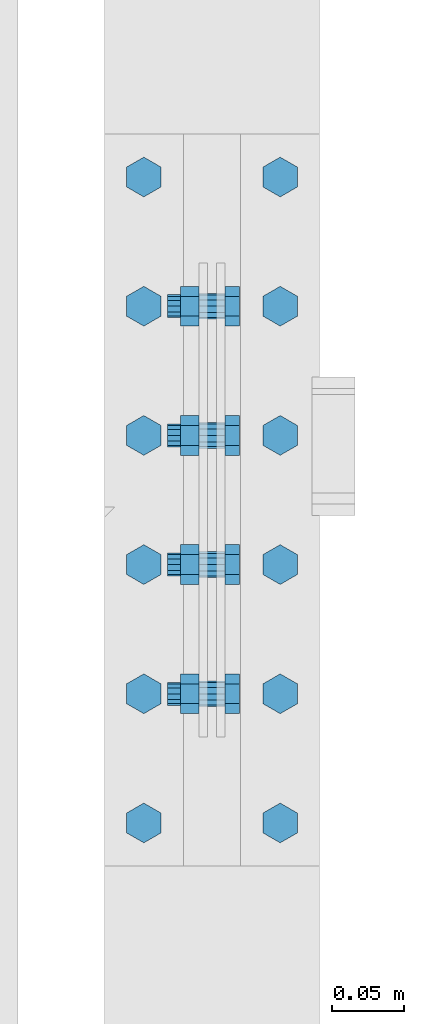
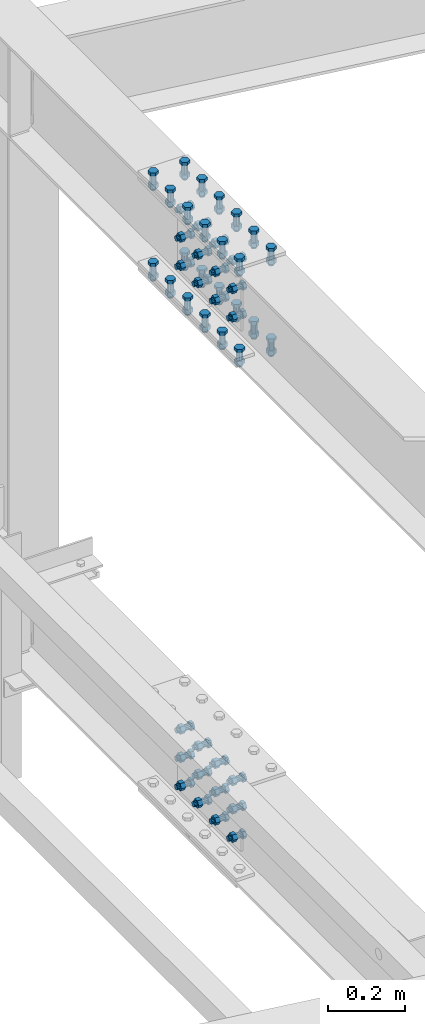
# One storey, part 272 of 3134: 12 mechanical fasteners, 2 elements without a shape of their own.
"""IFC2X3 building model written with IfcOpenShell, lengths in millimetres."""

from ifc_helpers import new_model, si_unit, frame, origin_with_axes, place, context, subcontext, project, spatial, faceted_brep, source, transform, mapped, material, type_object, element, aggregate, save


model = new_model("IFC2X3")

# Units and contexts
model_context = context("Model", 3, precision=1e-05, world=origin_with_axes())
body_context = subcontext(model_context, "Body", "Model", "MODEL_VIEW")
ifc_project = project(units=[si_unit("LENGTHUNIT", "METRE", prefix="MILLI"), si_unit("AREAUNIT", "SQUARE_METRE"), si_unit("VOLUMEUNIT", "CUBIC_METRE"), si_unit("MASSUNIT", "GRAM", prefix="KILO"), si_unit("TIMEUNIT", "SECOND"), si_unit("PLANEANGLEUNIT", "RADIAN"), si_unit("SOLIDANGLEUNIT", "STERADIAN"), si_unit("THERMODYNAMICTEMPERATUREUNIT", "DEGREE_CELSIUS"), si_unit("LUMINOUSINTENSITYUNIT", "LUMEN")], contexts=[model_context])

# Site, building, storey
site_placement = place(None, origin_with_axes())
site = spatial("IfcSite", under=ifc_project, at=site_placement, CompositionType="ELEMENT")
building_placement = place(site_placement, origin_with_axes())
building = spatial("IfcBuilding", under=site, at=building_placement, Name="Undefined", CompositionType="ELEMENT")
storey_placement = place(building_placement, origin_with_axes())
storey = spatial("IfcBuildingStorey", under=building, at=storey_placement, Name="Undefined", CompositionType="ELEMENT", Elevation=0.0)

# Assembly, mechanical fastener
assembly_1_placement = place(storey_placement, origin_with_axes())
assembly_1 = element("IfcElementAssembly", 1, at=assembly_1_placement, inside=storey, Name="300", AssemblyPlace="NOTDEFINED", PredefinedType="RIGID_FRAME")
ifc_material = material(Name="8.8")
mechanical_fastener_type = type_object("IfcMechanicalFastenerType", Name="Bolt assembly")
shared_shape_1 = source(origin_with_axes(), body_context, "Body", "Brep", [
    faceted_brep([(13.856406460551, -19.0499999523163, 0.0), (6.92820323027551, -19.0499999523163, 12.0), (-6.92820323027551, -19.0499999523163, 12.0), (-13.856406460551, -19.0499999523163, 1.69692038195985e-15), (-6.92820323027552, -19.0499999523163, -12.0), (6.9282032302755, -19.0499999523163, -12.0), (6.9282032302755, -9.04999995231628, -12.0), (-6.92820323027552, -9.04999995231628, -12.0), (-13.856406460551, -9.04999995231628, 1.69692038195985e-15), (-6.92820323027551, -9.04999995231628, 12.0), (6.92820323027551, -9.04999995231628, 12.0), (13.856406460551, -9.04999995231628, 0.0), (8.0, -9.04999995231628, 0.0), (6.92820323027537, -9.04999995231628, 4.00000000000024), (3.99999999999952, -9.04999995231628, 6.92820323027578), (-8.29068785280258e-13, -9.04999995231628, 8.0), (-4.00000000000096, -9.04999995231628, 6.92820323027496), (-6.9282032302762, -9.04999995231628, 3.99999999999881), (-8.0, -9.04999995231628, -1.65813757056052e-12), (-6.92820323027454, -9.04999995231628, -4.00000000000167), (-3.99999999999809, -9.04999995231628, -6.92820323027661), (2.47832457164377e-12, -9.04999995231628, -8.0), (4.00000000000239, -9.04999995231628, -6.92820323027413), (6.92820323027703, -9.04999995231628, -3.99999999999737), (6.92820323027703, 30.9500000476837, -3.99999999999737), (4.00000000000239, 30.9500000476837, -6.92820323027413), (2.47832457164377e-12, 30.9500000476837, -8.0), (-3.99999999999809, 30.9500000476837, -6.92820323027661), (-6.92820323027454, 30.9500000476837, -4.00000000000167), (-8.0, 30.9500000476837, -1.65813757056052e-12), (-6.9282032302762, 30.9500000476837, 3.99999999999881), (-4.00000000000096, 30.9500000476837, 6.92820323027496), (-8.29068785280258e-13, 30.9500000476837, 8.0), (3.99999999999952, 30.9500000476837, 6.92820323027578), (6.92820323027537, 30.9500000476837, 4.00000000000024), (8.0, 30.9500000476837, 0.0), (13.856406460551, 9.04999995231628, 0.0), (6.92820323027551, 9.04999995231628, 12.0), (-6.92820323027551, 9.04999995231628, 12.0), (-13.856406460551, 9.04999995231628, 1.69692038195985e-15), (-6.92820323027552, 9.04999995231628, -12.0), (6.9282032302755, 9.04999995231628, -12.0), (6.9282032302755, 22.0499999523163, -12.0), (-6.92820323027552, 22.0499999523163, -12.0), (-13.856406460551, 22.0499999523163, 1.69692038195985e-15), (-6.92820323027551, 22.0499999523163, 12.0), (6.92820323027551, 22.0499999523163, 12.0), (13.856406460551, 22.0499999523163, 0.0)], [[[0, 1, 2, 3, 4, 5]], [[6, 7, 8, 9, 10, 11]], [[0, 11, 10, 1]], [[1, 10, 9, 2]], [[2, 9, 8, 3]], [[3, 8, 7, 4]], [[4, 7, 6, 5]], [[5, 6, 11, 0]], [[12, 13, 14, 15, 16, 17, 18, 19, 20, 21, 22, 23]], [[24, 25, 26, 27, 28, 29, 30, 31, 32, 33, 34, 35]], [[12, 35, 34, 13]], [[13, 34, 33, 14]], [[14, 33, 32, 15]], [[15, 32, 31, 16]], [[16, 31, 30, 17]], [[17, 30, 29, 18]], [[18, 29, 28, 19]], [[19, 28, 27, 20]], [[20, 27, 26, 21]], [[21, 26, 25, 22]], [[22, 25, 24, 23]], [[23, 24, 35, 12]], [[36, 37, 38, 39, 40, 41]], [[42, 43, 44, 45, 46, 47]], [[36, 47, 46, 37]], [[37, 46, 45, 38]], [[38, 45, 44, 39]], [[39, 44, 43, 40]], [[40, 43, 42, 41]], [[41, 42, 47, 36]]]),
    faceted_brep([(9.0, -8.94999995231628, 0.0), (7.79422863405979, -8.94999995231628, 4.50000000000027), (4.49999999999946, -8.94999995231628, 7.79422863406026), (-9.3270238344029e-13, -8.94999995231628, 9.0), (-4.50000000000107, -8.94999995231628, 7.79422863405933), (-7.79422863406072, -8.94999995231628, 4.49999999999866), (-9.0, -8.94999995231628, -1.86540476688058e-12), (-7.79422863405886, -8.94999995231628, -4.50000000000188), (-4.49999999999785, -8.94999995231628, -7.79422863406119), (2.78811514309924e-12, -8.94999995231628, -9.0), (4.50000000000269, -8.94999995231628, -7.7942286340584), (7.79422863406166, -8.94999995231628, -4.49999999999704), (7.79422863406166, -2.94999995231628, -4.49999999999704), (4.50000000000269, -2.94999995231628, -7.7942286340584), (2.78811514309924e-12, -2.94999995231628, -9.0), (-4.49999999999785, -2.94999995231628, -7.79422863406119), (-7.79422863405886, -2.94999995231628, -4.50000000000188), (-9.0, -2.94999995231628, -1.86540476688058e-12), (-7.79422863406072, -2.94999995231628, 4.49999999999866), (-4.50000000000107, -2.94999995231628, 7.79422863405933), (-9.3270238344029e-13, -2.94999995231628, 9.0), (4.49999999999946, -2.94999995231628, 7.79422863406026), (7.79422863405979, -2.94999995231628, 4.50000000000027), (9.0, -2.94999995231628, 0.0), (9.0, -3.04999995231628, 0.0), (7.79422863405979, -3.04999995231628, 4.50000000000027), (4.49999999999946, -3.04999995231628, 7.79422863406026), (-9.3270238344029e-13, -3.04999995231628, 9.0), (-4.50000000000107, -3.04999995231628, 7.79422863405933), (-7.79422863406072, -3.04999995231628, 4.49999999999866), (-9.0, -3.04999995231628, -1.86540476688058e-12), (-7.79422863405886, -3.04999995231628, -4.50000000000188), (-4.49999999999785, -3.04999995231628, -7.79422863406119), (2.78811514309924e-12, -3.04999995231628, -9.0), (4.50000000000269, -3.04999995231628, -7.7942286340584), (7.79422863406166, -3.04999995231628, -4.49999999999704), (7.79422863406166, 3.04999995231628, -4.49999999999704), (4.50000000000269, 3.04999995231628, -7.7942286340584), (2.78811514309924e-12, 3.04999995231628, -9.0), (-4.49999999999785, 3.04999995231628, -7.79422863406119), (-7.79422863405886, 3.04999995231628, -4.50000000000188), (-9.0, 3.04999995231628, -1.86540476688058e-12), (-7.79422863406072, 3.04999995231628, 4.49999999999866), (-4.50000000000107, 3.04999995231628, 7.79422863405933), (-9.3270238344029e-13, 3.04999995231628, 9.0), (4.49999999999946, 3.04999995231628, 7.79422863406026), (7.79422863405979, 3.04999995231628, 4.50000000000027), (9.0, 3.04999995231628, 0.0), (9.0, 2.95000000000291, 0.0), (7.79422863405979, 2.95000000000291, 4.50000000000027), (4.49999999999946, 2.95000000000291, 7.79422863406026), (-9.3270238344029e-13, 2.95000000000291, 9.0), (-4.50000000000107, 2.95000000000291, 7.79422863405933), (-7.79422863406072, 2.95000000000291, 4.49999999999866), (-9.0, 2.95000000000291, -1.86540476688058e-12), (-7.79422863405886, 2.95000000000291, -4.50000000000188), (-4.49999999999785, 2.95000000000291, -7.79422863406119), (2.78811514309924e-12, 2.95000000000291, -9.0), (4.50000000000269, 2.95000000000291, -7.7942286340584), (7.79422863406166, 2.95000000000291, -4.49999999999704), (7.79422863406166, 9.04999995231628, -4.49999999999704), (4.50000000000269, 9.04999995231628, -7.7942286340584), (2.78811514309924e-12, 9.04999995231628, -9.0), (-4.49999999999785, 9.04999995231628, -7.79422863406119), (-7.79422863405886, 9.04999995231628, -4.50000000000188), (-9.0, 9.04999995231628, -1.86540476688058e-12), (-7.79422863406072, 9.04999995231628, 4.49999999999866), (-4.50000000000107, 9.04999995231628, 7.79422863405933), (-9.3270238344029e-13, 9.04999995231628, 9.0), (4.49999999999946, 9.04999995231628, 7.79422863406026), (7.79422863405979, 9.04999995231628, 4.50000000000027), (9.0, 9.04999995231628, 0.0)], [[[0, 1, 2, 3, 4, 5, 6, 7, 8, 9, 10, 11]], [[12, 13, 14, 15, 16, 17, 18, 19, 20, 21, 22, 23]], [[0, 23, 22, 1]], [[1, 22, 21, 2]], [[2, 21, 20, 3]], [[3, 20, 19, 4]], [[4, 19, 18, 5]], [[5, 18, 17, 6]], [[6, 17, 16, 7]], [[7, 16, 15, 8]], [[8, 15, 14, 9]], [[9, 14, 13, 10]], [[10, 13, 12, 11]], [[11, 12, 23, 0]], [[24, 25, 26, 27, 28, 29, 30, 31, 32, 33, 34, 35]], [[36, 37, 38, 39, 40, 41, 42, 43, 44, 45, 46, 47]], [[24, 47, 46, 25]], [[25, 46, 45, 26]], [[26, 45, 44, 27]], [[27, 44, 43, 28]], [[28, 43, 42, 29]], [[29, 42, 41, 30]], [[30, 41, 40, 31]], [[31, 40, 39, 32]], [[32, 39, 38, 33]], [[33, 38, 37, 34]], [[34, 37, 36, 35]], [[35, 36, 47, 24]], [[48, 49, 50, 51, 52, 53, 54, 55, 56, 57, 58, 59]], [[60, 61, 62, 63, 64, 65, 66, 67, 68, 69, 70, 71]], [[48, 71, 70, 49]], [[49, 70, 69, 50]], [[50, 69, 68, 51]], [[51, 68, 67, 52]], [[52, 67, 66, 53]], [[53, 66, 65, 54]], [[54, 65, 64, 55]], [[55, 64, 63, 56]], [[56, 63, 62, 57]], [[57, 62, 61, 58]], [[58, 61, 60, 59]], [[59, 60, 71, 48]]]),
])
mechanical_fastener_1_placement = place(assembly_1_placement, frame((44200.0, 52220.1, 5741.5), z_axis=(0.0, 0.0, 1.0), x_axis=(0.0, 1.0, 0.0)))
mechanical_fastener_1 = element("IfcMechanicalFastener", 2, at=mechanical_fastener_1_placement, type_object=mechanical_fastener_type, material=ifc_material, Name="Bolt assembly", NominalDiameter=16.0, NominalLength=40.0, context=body_context, shape_type="MappedRepresentation", body=[
    mapped(shared_shape_1, transform((0.0, 0.0, -90.0))),
    mapped(shared_shape_1, transform((90.0, 0.0, -90.0))),
    mapped(shared_shape_1, transform((0.0, 0.0, 0.0))),
    mapped(shared_shape_1, transform((90.0, 0.0, 0.0))),
    mapped(shared_shape_1, transform((0.0, 0.0, 90.0))),
    mapped(shared_shape_1, transform((90.0, 0.0, 90.0))),
])

# Assembly, mechanical fasteners
assembly_2_placement = place(storey_placement, origin_with_axes())
assembly_2 = element("IfcElementAssembly", 3, at=assembly_2_placement, inside=storey, Name="300", AssemblyPlace="NOTDEFINED", PredefinedType="RIGID_FRAME")
mechanical_fastener_2_placement = place(assembly_2_placement, frame((44200.0, 52040.1, 5741.5), z_axis=(0.0, 0.0, 1.0), x_axis=(0.0, 1.0, 0.0)))
mechanical_fastener_2 = element("IfcMechanicalFastener", 4, at=mechanical_fastener_2_placement, type_object=mechanical_fastener_type, material=ifc_material, Name="Bolt assembly", NominalDiameter=16.0, NominalLength=40.0, context=body_context, shape_type="MappedRepresentation", body=[
    mapped(shared_shape_1, transform((0.0, 0.0, -90.0))),
    mapped(shared_shape_1, transform((90.0, 0.0, -90.0))),
    mapped(shared_shape_1, transform((0.0, 0.0, 0.0))),
    mapped(shared_shape_1, transform((90.0, 0.0, 0.0))),
    mapped(shared_shape_1, transform((0.0, 0.0, 90.0))),
    mapped(shared_shape_1, transform((90.0, 0.0, 90.0))),
])
mechanical_fastener_3_placement = place(assembly_2_placement, frame((44200.0, 52040.1, 4088.5), z_axis=(0.0, 0.0, 1.0), x_axis=(0.0, 1.0, 0.0)))
mechanical_fastener_3 = element("IfcMechanicalFastener", 5, at=mechanical_fastener_3_placement, type_object=mechanical_fastener_type, material=ifc_material, Name="Bolt assembly", NominalDiameter=16.0, NominalLength=40.0, context=body_context, shape_type="MappedRepresentation", body=[
    mapped(shared_shape_1, transform((0.0, 0.0, -90.0))),
    mapped(shared_shape_1, transform((90.0, 0.0, -90.0))),
    mapped(shared_shape_1, transform((0.0, 0.0, 0.0))),
    mapped(shared_shape_1, transform((90.0, 0.0, 0.0))),
    mapped(shared_shape_1, transform((0.0, 0.0, 90.0))),
    mapped(shared_shape_1, transform((90.0, 0.0, 90.0))),
])

# Mechanical fastener
mechanical_fastener_4_placement = place(assembly_1_placement, frame((44200.0, 52220.1, 4088.5), z_axis=(0.0, 0.0, 1.0), x_axis=(0.0, 1.0, 0.0)))
mechanical_fastener_4 = element("IfcMechanicalFastener", 6, at=mechanical_fastener_4_placement, type_object=mechanical_fastener_type, material=ifc_material, Name="Bolt assembly", NominalDiameter=16.0, NominalLength=40.0, context=body_context, shape_type="MappedRepresentation", body=[
    mapped(shared_shape_1, transform((0.0, 0.0, -90.0))),
    mapped(shared_shape_1, transform((90.0, 0.0, -90.0))),
    mapped(shared_shape_1, transform((0.0, 0.0, 0.0))),
    mapped(shared_shape_1, transform((90.0, 0.0, 0.0))),
    mapped(shared_shape_1, transform((0.0, 0.0, 90.0))),
    mapped(shared_shape_1, transform((90.0, 0.0, 90.0))),
])

shared_shape_2 = source(origin_with_axes(), body_context, "Body", "Brep", [
    faceted_brep([(13.856406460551, -29.1999998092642, 0.0), (6.92820323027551, -29.1999998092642, 12.0), (-6.92820323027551, -29.1999998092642, 12.0), (-13.856406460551, -29.1999998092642, 1.69692038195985e-15), (-6.92820323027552, -29.1999998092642, -12.0), (6.9282032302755, -29.1999998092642, -12.0), (6.9282032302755, -19.199990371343, -12.0), (-6.92820323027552, -19.199990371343, -12.0), (-13.856406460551, -19.199990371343, 1.69692038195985e-15), (-6.92820323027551, -19.199990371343, 12.0), (6.92820323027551, -19.199990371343, 12.0), (13.856406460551, -19.199990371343, 0.0), (8.0, -19.1999998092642, 0.0), (6.92820323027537, -19.1999998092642, 4.00000000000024), (3.99999999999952, -19.1999998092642, 6.92820323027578), (-8.29068785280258e-13, -19.1999998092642, 8.0), (-4.00000000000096, -19.1999998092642, 6.92820323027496), (-6.9282032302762, -19.1999998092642, 3.99999999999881), (-8.0, -19.1999998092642, -1.65813757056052e-12), (-6.92820323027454, -19.1999998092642, -4.00000000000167), (-3.99999999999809, -19.1999998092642, -6.92820323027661), (2.47832457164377e-12, -19.1999998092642, -8.0), (4.00000000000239, -19.1999998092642, -6.92820323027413), (6.92820323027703, -19.1999998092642, -3.99999999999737), (6.92820323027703, 30.8000001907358, -3.99999999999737), (4.00000000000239, 30.8000001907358, -6.92820323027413), (2.47832457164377e-12, 30.8000001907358, -8.0), (-3.99999999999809, 30.8000001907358, -6.92820323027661), (-6.92820323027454, 30.8000001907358, -4.00000000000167), (-8.0, 30.8000001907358, -1.65813757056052e-12), (-6.9282032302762, 30.8000001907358, 3.99999999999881), (-4.00000000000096, 30.8000001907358, 6.92820323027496), (-8.29068785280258e-13, 30.8000001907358, 8.0), (3.99999999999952, 30.8000001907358, 6.92820323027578), (6.92820323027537, 30.8000001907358, 4.00000000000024), (8.0, 30.8000001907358, 0.0), (13.856406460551, 9.99999995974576, 0.0), (6.92820323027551, 9.99999995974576, 12.0), (-6.92820323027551, 9.99999995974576, 12.0), (-13.856406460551, 9.99999995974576, 1.69692038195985e-15), (-6.92820323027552, 9.99999995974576, -12.0), (6.9282032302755, 9.99999995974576, -12.0), (6.9282032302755, 22.9999913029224, -12.0), (-6.92820323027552, 22.9999913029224, -12.0), (-13.856406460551, 22.9999913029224, 1.69692038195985e-15), (-6.92820323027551, 22.9999913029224, 12.0), (6.92820323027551, 22.9999913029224, 12.0), (13.856406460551, 22.9999913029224, 0.0)], [[[0, 1, 2, 3, 4, 5]], [[6, 7, 8, 9, 10, 11]], [[0, 11, 10, 1]], [[1, 10, 9, 2]], [[2, 9, 8, 3]], [[3, 8, 7, 4]], [[4, 7, 6, 5]], [[5, 6, 11, 0]], [[12, 13, 14, 15, 16, 17, 18, 19, 20, 21, 22, 23]], [[24, 25, 26, 27, 28, 29, 30, 31, 32, 33, 34, 35]], [[12, 35, 34, 13]], [[13, 34, 33, 14]], [[14, 33, 32, 15]], [[15, 32, 31, 16]], [[16, 31, 30, 17]], [[17, 30, 29, 18]], [[18, 29, 28, 19]], [[19, 28, 27, 20]], [[20, 27, 26, 21]], [[21, 26, 25, 22]], [[22, 25, 24, 23]], [[23, 24, 35, 12]], [[36, 37, 38, 39, 40, 41]], [[42, 43, 44, 45, 46, 47]], [[36, 47, 46, 37]], [[37, 46, 45, 38]], [[38, 45, 44, 39]], [[39, 44, 43, 40]], [[40, 43, 42, 41]], [[41, 42, 47, 36]]]),
    faceted_brep([(9.0, -19.0999998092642, 0.0), (7.79422863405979, -19.0999998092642, 4.50000000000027), (4.49999999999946, -19.0999998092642, 7.79422863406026), (-9.3270238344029e-13, -19.0999998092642, 9.0), (-4.50000000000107, -19.0999998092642, 7.79422863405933), (-7.79422863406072, -19.0999998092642, 4.49999999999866), (-9.0, -19.0999998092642, -1.86540476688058e-12), (-7.79422863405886, -19.0999998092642, -4.50000000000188), (-4.49999999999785, -19.0999998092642, -7.79422863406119), (2.78811514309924e-12, -19.0999998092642, -9.0), (4.50000000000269, -19.0999998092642, -7.7942286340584), (7.79422863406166, -19.0999998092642, -4.49999999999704), (7.79422863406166, -9.09999037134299, -4.49999999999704), (4.50000000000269, -9.09999037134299, -7.7942286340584), (2.78811514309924e-12, -9.09999037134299, -9.0), (-4.49999999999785, -9.09999037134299, -7.79422863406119), (-7.79422863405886, -9.09999037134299, -4.50000000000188), (-9.0, -9.09999037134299, -1.86540476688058e-12), (-7.79422863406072, -9.09999037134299, 4.49999999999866), (-4.50000000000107, -9.09999037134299, 7.79422863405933), (-9.3270238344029e-13, -9.09999037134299, 9.0), (4.49999999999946, -9.09999037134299, 7.79422863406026), (7.79422863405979, -9.09999037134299, 4.50000000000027), (9.0, -9.09999037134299, 0.0), (9.0, -9.20000008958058, 0.0), (7.79422863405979, -9.20000008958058, 4.50000000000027), (4.49999999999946, -9.20000008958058, 7.79422863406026), (-9.3270238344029e-13, -9.20000008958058, 9.0), (-4.50000000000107, -9.20000008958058, 7.79422863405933), (-7.79422863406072, -9.20000008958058, 4.49999999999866), (-9.0, -9.20000008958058, -1.86540476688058e-12), (-7.79422863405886, -9.20000008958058, -4.50000000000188), (-4.49999999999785, -9.20000008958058, -7.79422863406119), (2.78811514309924e-12, -9.20000008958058, -9.0), (4.50000000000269, -9.20000008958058, -7.7942286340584), (7.79422863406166, -9.20000008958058, -4.49999999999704), (7.79422863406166, -3.46568413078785e-07, -4.49999999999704), (4.50000000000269, -3.46568413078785e-07, -7.7942286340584), (2.78811514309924e-12, -3.46568413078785e-07, -9.0), (-4.49999999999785, -3.46568413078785e-07, -7.79422863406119), (-7.79422863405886, -3.46568413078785e-07, -4.50000000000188), (-9.0, -3.46568413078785e-07, -1.86540476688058e-12), (-7.79422863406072, -3.46568413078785e-07, 4.49999999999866), (-4.50000000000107, -3.46568413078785e-07, 7.79422863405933), (-9.3270238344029e-13, -3.46568413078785e-07, 9.0), (4.49999999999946, -3.46568413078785e-07, 7.79422863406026), (7.79422863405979, -3.46568413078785e-07, 4.50000000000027), (9.0, -3.46568413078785e-07, 0.0), (9.0, -0.1, 0.0), (7.79422863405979, -0.1, 4.50000000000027), (4.49999999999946, -0.1, 7.79422863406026), (-9.3270238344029e-13, -0.1, 9.0), (-4.50000000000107, -0.1, 7.79422863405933), (-7.79422863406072, -0.1, 4.49999999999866), (-9.0, -0.1, -1.86540476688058e-12), (-7.79422863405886, -0.1, -4.50000000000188), (-4.49999999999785, -0.1, -7.79422863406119), (2.78811514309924e-12, -0.1, -9.0), (4.50000000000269, -0.1, -7.7942286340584), (7.79422863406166, -0.1, -4.49999999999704), (7.79422863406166, 9.99999995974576, -4.49999999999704), (4.50000000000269, 9.99999995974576, -7.7942286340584), (2.78811514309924e-12, 9.99999995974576, -9.0), (-4.49999999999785, 9.99999995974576, -7.79422863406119), (-7.79422863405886, 9.99999995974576, -4.50000000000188), (-9.0, 9.99999995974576, -1.86540476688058e-12), (-7.79422863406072, 9.99999995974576, 4.49999999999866), (-4.50000000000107, 9.99999995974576, 7.79422863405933), (-9.3270238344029e-13, 9.99999995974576, 9.0), (4.49999999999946, 9.99999995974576, 7.79422863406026), (7.79422863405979, 9.99999995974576, 4.50000000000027), (9.0, 9.99999995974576, 0.0)], [[[0, 1, 2, 3, 4, 5, 6, 7, 8, 9, 10, 11]], [[12, 13, 14, 15, 16, 17, 18, 19, 20, 21, 22, 23]], [[0, 23, 22, 1]], [[1, 22, 21, 2]], [[2, 21, 20, 3]], [[3, 20, 19, 4]], [[4, 19, 18, 5]], [[5, 18, 17, 6]], [[6, 17, 16, 7]], [[7, 16, 15, 8]], [[8, 15, 14, 9]], [[9, 14, 13, 10]], [[10, 13, 12, 11]], [[11, 12, 23, 0]], [[24, 25, 26, 27, 28, 29, 30, 31, 32, 33, 34, 35]], [[36, 37, 38, 39, 40, 41, 42, 43, 44, 45, 46, 47]], [[24, 47, 46, 25]], [[25, 46, 45, 26]], [[26, 45, 44, 27]], [[27, 44, 43, 28]], [[28, 43, 42, 29]], [[29, 42, 41, 30]], [[30, 41, 40, 31]], [[31, 40, 39, 32]], [[32, 39, 38, 33]], [[33, 38, 37, 34]], [[34, 37, 36, 35]], [[35, 36, 47, 24]], [[48, 49, 50, 51, 52, 53, 54, 55, 56, 57, 58, 59]], [[60, 61, 62, 63, 64, 65, 66, 67, 68, 69, 70, 71]], [[48, 71, 70, 49]], [[49, 70, 69, 50]], [[50, 69, 68, 51]], [[51, 68, 67, 52]], [[52, 67, 66, 53]], [[53, 66, 65, 54]], [[54, 65, 64, 55]], [[55, 64, 63, 56]], [[56, 63, 62, 57]], [[57, 62, 61, 58]], [[58, 61, 60, 59]], [[59, 60, 71, 48]]]),
])
mechanical_fastener_5_placement = place(assembly_2_placement, frame((44152.5, 51950.1, 5880.80000019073), z_axis=(-1.0, 0.0, 0.0), x_axis=(0.0, 1.0, 0.0)))
mechanical_fastener_5 = element("IfcMechanicalFastener", 7, at=mechanical_fastener_5_placement, type_object=mechanical_fastener_type, material=ifc_material, Name="Bolt assembly", NominalDiameter=16.0, NominalLength=50.0, context=body_context, shape_type="MappedRepresentation", body=[
    mapped(shared_shape_2, transform((0.0, 0.0, 0.0))),
    mapped(shared_shape_2, transform((90.0, 0.0, 0.0))),
    mapped(shared_shape_2, transform((180.0, 0.0, 0.0))),
])

mechanical_fastener_6_placement = place(assembly_1_placement, frame((44152.5, 52220.1, 5880.80000019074), z_axis=(-1.0, 0.0, 0.0), x_axis=(0.0, 1.0, 0.0)))
mechanical_fastener_6 = element("IfcMechanicalFastener", 8, at=mechanical_fastener_6_placement, type_object=mechanical_fastener_type, material=ifc_material, Name="Bolt assembly", NominalDiameter=16.0, NominalLength=50.0, context=body_context, shape_type="MappedRepresentation", body=[
    mapped(shared_shape_2, transform((0.0, 0.0, 0.0))),
    mapped(shared_shape_2, transform((90.0, 0.0, 0.0))),
    mapped(shared_shape_2, transform((180.0, 0.0, 0.0))),
])

mechanical_fastener_7_placement = place(assembly_2_placement, frame((44247.5, 51950.1, 5880.80000019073), z_axis=(-1.0, 0.0, 0.0), x_axis=(0.0, 1.0, 0.0)))
mechanical_fastener_7 = element("IfcMechanicalFastener", 9, at=mechanical_fastener_7_placement, type_object=mechanical_fastener_type, material=ifc_material, Name="Bolt assembly", NominalDiameter=16.0, NominalLength=50.0, context=body_context, shape_type="MappedRepresentation", body=[
    mapped(shared_shape_2, transform((0.0, 0.0, 0.0))),
    mapped(shared_shape_2, transform((90.0, 0.0, 0.0))),
    mapped(shared_shape_2, transform((180.0, 0.0, 0.0))),
])

mechanical_fastener_8_placement = place(assembly_1_placement, frame((44247.5, 52220.1, 5880.80000019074), z_axis=(-1.0, 0.0, 0.0), x_axis=(0.0, 1.0, 0.0)))
mechanical_fastener_8 = element("IfcMechanicalFastener", 10, at=mechanical_fastener_8_placement, type_object=mechanical_fastener_type, material=ifc_material, Name="Bolt assembly", NominalDiameter=16.0, NominalLength=50.0, context=body_context, shape_type="MappedRepresentation", body=[
    mapped(shared_shape_2, transform((0.0, 0.0, 0.0))),
    mapped(shared_shape_2, transform((90.0, 0.0, 0.0))),
    mapped(shared_shape_2, transform((180.0, 0.0, 0.0))),
])

shared_shape_3 = source(origin_with_axes(), body_context, "Body", "Brep", [
    faceted_brep([(13.856406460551, -20.0, 0.0), (6.92820323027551, -20.0, 12.0), (-6.92820323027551, -20.0, 12.0), (-13.856406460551, -20.0, 1.69692038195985e-15), (-6.92820323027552, -20.0, -12.0), (6.9282032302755, -20.0, -12.0), (6.9282032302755, -10.0, -12.0), (-6.92820323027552, -10.0, -12.0), (-13.856406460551, -10.0, 1.69692038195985e-15), (-6.92820323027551, -10.0, 12.0), (6.92820323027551, -10.0, 12.0), (13.856406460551, -10.0, 0.0), (8.0, -10.0, 0.0), (6.92820323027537, -10.0, 4.00000000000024), (3.99999999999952, -10.0, 6.92820323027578), (-8.29068785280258e-13, -10.0, 8.0), (-4.00000000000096, -10.0, 6.92820323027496), (-6.9282032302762, -10.0, 3.99999999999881), (-8.0, -10.0, -1.65813757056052e-12), (-6.92820323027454, -10.0, -4.00000000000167), (-3.99999999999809, -10.0, -6.92820323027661), (2.47832457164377e-12, -10.0, -8.0), (4.00000000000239, -10.0, -6.92820323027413), (6.92820323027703, -10.0, -3.99999999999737), (6.92820323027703, 40.0, -3.99999999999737), (4.00000000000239, 40.0, -6.92820323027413), (2.47832457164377e-12, 40.0, -8.0), (-3.99999999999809, 40.0, -6.92820323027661), (-6.92820323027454, 40.0, -4.00000000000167), (-8.0, 40.0, -1.65813757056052e-12), (-6.9282032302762, 40.0, 3.99999999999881), (-4.00000000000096, 40.0, 6.92820323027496), (-8.29068785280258e-13, 40.0, 8.0), (3.99999999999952, 40.0, 6.92820323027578), (6.92820323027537, 40.0, 4.00000000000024), (8.0, 40.0, 0.0), (13.856406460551, 19.1999998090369, 0.0), (6.92820323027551, 19.1999998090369, 12.0), (-6.92820323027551, 19.1999998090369, 12.0), (-13.856406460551, 19.1999998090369, 1.69692038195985e-15), (-6.92820323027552, 19.1999998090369, -12.0), (6.9282032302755, 19.1999998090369, -12.0), (6.9282032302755, 32.1999998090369, -12.0), (-6.92820323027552, 32.1999998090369, -12.0), (-13.856406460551, 32.1999998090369, 1.69692038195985e-15), (-6.92820323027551, 32.1999998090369, 12.0), (6.92820323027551, 32.1999998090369, 12.0), (13.856406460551, 32.1999998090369, 0.0)], [[[0, 1, 2, 3, 4, 5]], [[6, 7, 8, 9, 10, 11]], [[0, 11, 10, 1]], [[1, 10, 9, 2]], [[2, 9, 8, 3]], [[3, 8, 7, 4]], [[4, 7, 6, 5]], [[5, 6, 11, 0]], [[12, 13, 14, 15, 16, 17, 18, 19, 20, 21, 22, 23]], [[24, 25, 26, 27, 28, 29, 30, 31, 32, 33, 34, 35]], [[12, 35, 34, 13]], [[13, 34, 33, 14]], [[14, 33, 32, 15]], [[15, 32, 31, 16]], [[16, 31, 30, 17]], [[17, 30, 29, 18]], [[18, 29, 28, 19]], [[19, 28, 27, 20]], [[20, 27, 26, 21]], [[21, 26, 25, 22]], [[22, 25, 24, 23]], [[23, 24, 35, 12]], [[36, 37, 38, 39, 40, 41]], [[42, 43, 44, 45, 46, 47]], [[36, 47, 46, 37]], [[37, 46, 45, 38]], [[38, 45, 44, 39]], [[39, 44, 43, 40]], [[40, 43, 42, 41]], [[41, 42, 47, 36]]]),
    faceted_brep([(9.0, 9.09999980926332, 0.0), (7.79422863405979, 9.09999980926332, 4.50000000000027), (4.49999999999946, 9.09999980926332, 7.79422863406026), (-9.3270238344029e-13, 9.09999980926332, 9.0), (-4.50000000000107, 9.09999980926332, 7.79422863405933), (-7.79422863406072, 9.09999980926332, 4.49999999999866), (-9.0, 9.09999980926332, -1.86540476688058e-12), (-7.79422863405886, 9.09999980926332, -4.50000000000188), (-4.49999999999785, 9.09999980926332, -7.79422863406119), (2.78811514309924e-12, 9.09999980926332, -9.0), (4.50000000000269, 9.09999980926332, -7.7942286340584), (7.79422863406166, 9.09999980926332, -4.49999999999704), (7.79422863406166, 19.1999998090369, -4.49999999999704), (4.50000000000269, 19.1999998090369, -7.7942286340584), (2.78811514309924e-12, 19.1999998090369, -9.0), (-4.49999999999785, 19.1999998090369, -7.79422863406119), (-7.79422863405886, 19.1999998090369, -4.50000000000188), (-9.0, 19.1999998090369, -1.86540476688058e-12), (-7.79422863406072, 19.1999998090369, 4.49999999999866), (-4.50000000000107, 19.1999998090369, 7.79422863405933), (-9.3270238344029e-13, 19.1999998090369, 9.0), (4.49999999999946, 19.1999998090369, 7.79422863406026), (7.79422863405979, 19.1999998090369, 4.50000000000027), (9.0, 19.1999998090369, 0.0), (9.0, -3.46568413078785e-07, 0.0), (7.79422863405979, -3.46568413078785e-07, 4.50000000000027), (4.49999999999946, -3.46568413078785e-07, 7.79422863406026), (-9.3270238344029e-13, -3.46568413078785e-07, 9.0), (-4.50000000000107, -3.46568413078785e-07, 7.79422863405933), (-7.79422863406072, -3.46568413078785e-07, 4.49999999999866), (-9.0, -3.46568413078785e-07, -1.86540476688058e-12), (-7.79422863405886, -3.46568413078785e-07, -4.50000000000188), (-4.49999999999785, -3.46568413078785e-07, -7.79422863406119), (2.78811514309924e-12, -3.46568413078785e-07, -9.0), (4.50000000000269, -3.46568413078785e-07, -7.7942286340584), (7.79422863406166, -3.46568413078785e-07, -4.49999999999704), (7.79422863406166, 9.19999980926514, -4.49999999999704), (4.50000000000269, 9.19999980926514, -7.7942286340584), (2.78811514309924e-12, 9.19999980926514, -9.0), (-4.49999999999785, 9.19999980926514, -7.79422863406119), (-7.79422863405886, 9.19999980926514, -4.50000000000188), (-9.0, 9.19999980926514, -1.86540476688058e-12), (-7.79422863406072, 9.19999980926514, 4.49999999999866), (-4.50000000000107, 9.19999980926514, 7.79422863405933), (-9.3270238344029e-13, 9.19999980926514, 9.0), (4.49999999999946, 9.19999980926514, 7.79422863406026), (7.79422863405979, 9.19999980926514, 4.50000000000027), (9.0, 9.19999980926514, 0.0), (9.0, -9.89999997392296, 0.0), (7.79422863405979, -9.89999997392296, 4.50000000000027), (4.49999999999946, -9.89999997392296, 7.79422863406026), (-9.3270238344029e-13, -9.89999997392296, 9.0), (-4.50000000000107, -9.89999997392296, 7.79422863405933), (-7.79422863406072, -9.89999997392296, 4.49999999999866), (-9.0, -9.89999997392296, -1.86540476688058e-12), (-7.79422863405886, -9.89999997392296, -4.50000000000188), (-4.49999999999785, -9.89999997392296, -7.79422863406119), (2.78811514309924e-12, -9.89999997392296, -9.0), (4.50000000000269, -9.89999997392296, -7.7942286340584), (7.79422863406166, -9.89999997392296, -4.49999999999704), (7.79422863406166, 0.100000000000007, -4.49999999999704), (4.50000000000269, 0.100000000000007, -7.7942286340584), (2.78811514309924e-12, 0.100000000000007, -9.0), (-4.49999999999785, 0.100000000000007, -7.79422863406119), (-7.79422863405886, 0.100000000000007, -4.50000000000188), (-9.0, 0.100000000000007, -1.86540476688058e-12), (-7.79422863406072, 0.100000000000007, 4.49999999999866), (-4.50000000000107, 0.100000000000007, 7.79422863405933), (-9.3270238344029e-13, 0.100000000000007, 9.0), (4.49999999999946, 0.100000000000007, 7.79422863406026), (7.79422863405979, 0.100000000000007, 4.50000000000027), (9.0, 0.100000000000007, 0.0)], [[[0, 1, 2, 3, 4, 5, 6, 7, 8, 9, 10, 11]], [[12, 13, 14, 15, 16, 17, 18, 19, 20, 21, 22, 23]], [[0, 23, 22, 1]], [[1, 22, 21, 2]], [[2, 21, 20, 3]], [[3, 20, 19, 4]], [[4, 19, 18, 5]], [[5, 18, 17, 6]], [[6, 17, 16, 7]], [[7, 16, 15, 8]], [[8, 15, 14, 9]], [[9, 14, 13, 10]], [[10, 13, 12, 11]], [[11, 12, 23, 0]], [[24, 25, 26, 27, 28, 29, 30, 31, 32, 33, 34, 35]], [[36, 37, 38, 39, 40, 41, 42, 43, 44, 45, 46, 47]], [[24, 47, 46, 25]], [[25, 46, 45, 26]], [[26, 45, 44, 27]], [[27, 44, 43, 28]], [[28, 43, 42, 29]], [[29, 42, 41, 30]], [[30, 41, 40, 31]], [[31, 40, 39, 32]], [[32, 39, 38, 33]], [[33, 38, 37, 34]], [[34, 37, 36, 35]], [[35, 36, 47, 24]], [[48, 49, 50, 51, 52, 53, 54, 55, 56, 57, 58, 59]], [[60, 61, 62, 63, 64, 65, 66, 67, 68, 69, 70, 71]], [[48, 71, 70, 49]], [[49, 70, 69, 50]], [[50, 69, 68, 51]], [[51, 68, 67, 52]], [[52, 67, 66, 53]], [[53, 66, 65, 54]], [[54, 65, 64, 55]], [[55, 64, 63, 56]], [[56, 63, 62, 57]], [[57, 62, 61, 58]], [[58, 61, 60, 59]], [[59, 60, 71, 48]]]),
])
mechanical_fastener_9_placement = place(assembly_2_placement, frame((44247.4999999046, 51950.1, 5602.19999980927), z_axis=(-1.0, 0.0, 0.0), x_axis=(0.0, 1.0, 0.0)))
mechanical_fastener_9 = element("IfcMechanicalFastener", 11, at=mechanical_fastener_9_placement, type_object=mechanical_fastener_type, material=ifc_material, Name="Bolt assembly", NominalDiameter=16.0, NominalLength=50.0, context=body_context, shape_type="MappedRepresentation", body=[
    mapped(shared_shape_3, transform((0.0, 0.0, 0.0))),
    mapped(shared_shape_3, transform((90.0, 0.0, 0.0))),
    mapped(shared_shape_3, transform((180.0, 0.0, 0.0))),
])

mechanical_fastener_10_placement = place(assembly_1_placement, frame((44247.4999999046, 52220.1, 5602.19999980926), z_axis=(-1.0, 0.0, 0.0), x_axis=(0.0, 1.0, 0.0)))
mechanical_fastener_10 = element("IfcMechanicalFastener", 12, at=mechanical_fastener_10_placement, type_object=mechanical_fastener_type, material=ifc_material, Name="Bolt assembly", NominalDiameter=16.0, NominalLength=50.0, context=body_context, shape_type="MappedRepresentation", body=[
    mapped(shared_shape_3, transform((0.0, 0.0, 0.0))),
    mapped(shared_shape_3, transform((90.0, 0.0, 0.0))),
    mapped(shared_shape_3, transform((180.0, 0.0, 0.0))),
])

mechanical_fastener_11_placement = place(assembly_2_placement, frame((44152.4999999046, 51950.1, 5602.19999980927), z_axis=(-1.0, 0.0, 0.0), x_axis=(0.0, 1.0, 0.0)))
mechanical_fastener_11 = element("IfcMechanicalFastener", 13, at=mechanical_fastener_11_placement, type_object=mechanical_fastener_type, material=ifc_material, Name="Bolt assembly", NominalDiameter=16.0, NominalLength=50.0, context=body_context, shape_type="MappedRepresentation", body=[
    mapped(shared_shape_3, transform((0.0, 0.0, 0.0))),
    mapped(shared_shape_3, transform((90.0, 0.0, 0.0))),
    mapped(shared_shape_3, transform((180.0, 0.0, 0.0))),
])

aggregate(assembly_2, [mechanical_fastener_9, mechanical_fastener_11, mechanical_fastener_5, mechanical_fastener_7, mechanical_fastener_2, mechanical_fastener_3])

mechanical_fastener_12_placement = place(assembly_1_placement, frame((44152.4999999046, 52220.1, 5602.19999980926), z_axis=(-1.0, 0.0, 0.0), x_axis=(0.0, 1.0, 0.0)))
mechanical_fastener_12 = element("IfcMechanicalFastener", 14, at=mechanical_fastener_12_placement, type_object=mechanical_fastener_type, material=ifc_material, Name="Bolt assembly", NominalDiameter=16.0, NominalLength=50.0, context=body_context, shape_type="MappedRepresentation", body=[
    mapped(shared_shape_3, transform((0.0, 0.0, 0.0))),
    mapped(shared_shape_3, transform((90.0, 0.0, 0.0))),
    mapped(shared_shape_3, transform((180.0, 0.0, 0.0))),
])

aggregate(assembly_1, [mechanical_fastener_10, mechanical_fastener_12, mechanical_fastener_6, mechanical_fastener_8, mechanical_fastener_1, mechanical_fastener_4])

save(model, "model.ifc")
